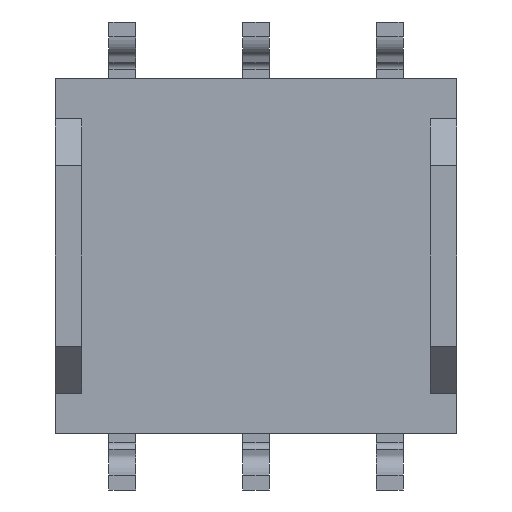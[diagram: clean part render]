
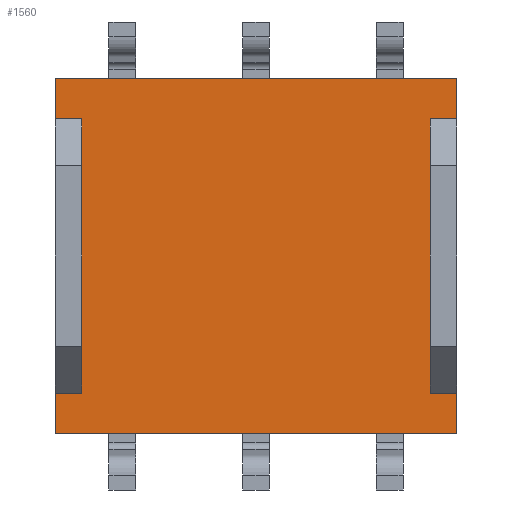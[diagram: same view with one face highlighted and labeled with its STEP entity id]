
A CAD part, front view. The second image highlights one B-rep face of the part: STEP entity #1560.
In plain terms, the highlighted planar face has unit normal (0, -1, 0).
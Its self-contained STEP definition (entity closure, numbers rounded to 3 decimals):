
#6 = ORIENTED_EDGE ( 'NONE', *, *, #292, .F. ) ;
#29 = LINE ( 'NONE', #2672, #2454 ) ;
#49 = DIRECTION ( 'NONE',  ( 0., 0., 1. ) ) ;
#68 = CARTESIAN_POINT ( 'NONE',  ( 3.81, 0., 2.605 ) ) ;
#77 = LINE ( 'NONE', #2484, #1863 ) ;
#141 = EDGE_CURVE ( 'NONE', #2230, #2447, #1150, .T. ) ;
#144 = DIRECTION ( 'NONE',  ( 0., -1., 0. ) ) ;
#147 = DIRECTION ( 'NONE',  ( 0., 0., -1. ) ) ;
#155 = VECTOR ( 'NONE', #1695, 1000. ) ;
#241 = ORIENTED_EDGE ( 'NONE', *, *, #947, .F. ) ;
#273 = VERTEX_POINT ( 'NONE', #792 ) ;
#280 = CARTESIAN_POINT ( 'NONE',  ( -3.81, 0., -3.365 ) ) ;
#292 = EDGE_CURVE ( 'NONE', #1627, #273, #927, .T. ) ;
#313 = VERTEX_POINT ( 'NONE', #2848 ) ;
#370 = CARTESIAN_POINT ( 'NONE',  ( 0., 0., 0. ) ) ;
#390 = VERTEX_POINT ( 'NONE', #2840 ) ;
#441 = DIRECTION ( 'NONE',  ( 0., 0., -1. ) ) ;
#499 = EDGE_CURVE ( 'NONE', #2447, #2584, #1364, .T. ) ;
#520 = VECTOR ( 'NONE', #2630, 1000. ) ;
#676 = CARTESIAN_POINT ( 'NONE',  ( 3.31, 0., 2.605 ) ) ;
#684 = LINE ( 'NONE', #1619, #3012 ) ;
#744 = VECTOR ( 'NONE', #2038, 1000. ) ;
#792 = CARTESIAN_POINT ( 'NONE',  ( -3.31, 0., 2.605 ) ) ;
#833 = CARTESIAN_POINT ( 'NONE',  ( 3.31, 0., -2.605 ) ) ;
#839 = EDGE_CURVE ( 'NONE', #2792, #313, #2719, .T. ) ;
#861 = VECTOR ( 'NONE', #49, 1000. ) ;
#872 = VECTOR ( 'NONE', #441, 1000. ) ;
#927 = LINE ( 'NONE', #1454, #861 ) ;
#947 = EDGE_CURVE ( 'NONE', #2584, #1627, #2892, .T. ) ;
#1017 = LINE ( 'NONE', #2060, #2806 ) ;
#1150 = LINE ( 'NONE', #280, #520 ) ;
#1275 = VECTOR ( 'NONE', #1329, 1000. ) ;
#1283 = CARTESIAN_POINT ( 'NONE',  ( -3.81, 0., 3.365 ) ) ;
#1329 = DIRECTION ( 'NONE',  ( 0., 0., 1. ) ) ;
#1345 = CARTESIAN_POINT ( 'NONE',  ( 3.81, 0., -3.365 ) ) ;
#1358 = EDGE_CURVE ( 'NONE', #1609, #2792, #77, .T. ) ;
#1364 = LINE ( 'NONE', #1283, #744 ) ;
#1392 = DIRECTION ( 'NONE',  ( 0., 0., -1. ) ) ;
#1399 = EDGE_LOOP ( 'NONE', ( #2129, #1456, #2870, #2341, #1758, #1882, #6, #241, #2151, #1682, #2360, #2368 ) ) ;
#1454 = CARTESIAN_POINT ( 'NONE',  ( -3.31, 0., 2.605 ) ) ;
#1456 = ORIENTED_EDGE ( 'NONE', *, *, #839, .F. ) ;
#1490 = CARTESIAN_POINT ( 'NONE',  ( -3.81, 0., -2.605 ) ) ;
#1497 = DIRECTION ( 'NONE',  ( 1., 0., 0. ) ) ;
#1505 = CARTESIAN_POINT ( 'NONE',  ( 3.81, 0., -2.605 ) ) ;
#1544 = PLANE ( 'NONE',  #2575 ) ;
#1556 = CARTESIAN_POINT ( 'NONE',  ( 3.81, 0., 3.365 ) ) ;
#1557 = DIRECTION ( 'NONE',  ( 1., 0., 0. ) ) ;
#1560 = ADVANCED_FACE ( 'NONE', ( #2677 ), #1544, .T. ) ;
#1609 = VERTEX_POINT ( 'NONE', #1556 ) ;
#1619 = CARTESIAN_POINT ( 'NONE',  ( 3.81, 0., 3.365 ) ) ;
#1627 = VERTEX_POINT ( 'NONE', #2028 ) ;
#1667 = CARTESIAN_POINT ( 'NONE',  ( -3.81, 0., -3.365 ) ) ;
#1682 = ORIENTED_EDGE ( 'NONE', *, *, #141, .F. ) ;
#1695 = DIRECTION ( 'NONE',  ( -1., 0., 0. ) ) ;
#1758 = ORIENTED_EDGE ( 'NONE', *, *, #2733, .F. ) ;
#1772 = DIRECTION ( 'NONE',  ( 0., 0., -1. ) ) ;
#1775 = VERTEX_POINT ( 'NONE', #2103 ) ;
#1863 = VECTOR ( 'NONE', #147, 1000. ) ;
#1882 = ORIENTED_EDGE ( 'NONE', *, *, #2246, .F. ) ;
#1967 = DIRECTION ( 'NONE',  ( 1., 0., 0. ) ) ;
#2028 = CARTESIAN_POINT ( 'NONE',  ( -3.31, 0., -2.605 ) ) ;
#2038 = DIRECTION ( 'NONE',  ( 0., 0., 1. ) ) ;
#2051 = EDGE_CURVE ( 'NONE', #2627, #1609, #29, .T. ) ;
#2058 = CARTESIAN_POINT ( 'NONE',  ( 3.81, 0., 2.605 ) ) ;
#2060 = CARTESIAN_POINT ( 'NONE',  ( -3.81, 0., 2.605 ) ) ;
#2103 = CARTESIAN_POINT ( 'NONE',  ( 3.81, 0., -2.605 ) ) ;
#2129 = ORIENTED_EDGE ( 'NONE', *, *, #2286, .F. ) ;
#2151 = ORIENTED_EDGE ( 'NONE', *, *, #499, .F. ) ;
#2172 = VERTEX_POINT ( 'NONE', #833 ) ;
#2222 = CARTESIAN_POINT ( 'NONE',  ( -3.81, 0., 3.365 ) ) ;
#2230 = VERTEX_POINT ( 'NONE', #1345 ) ;
#2246 = EDGE_CURVE ( 'NONE', #273, #390, #1017, .T. ) ;
#2266 = LINE ( 'NONE', #676, #872 ) ;
#2276 = VECTOR ( 'NONE', #1557, 1000. ) ;
#2286 = EDGE_CURVE ( 'NONE', #313, #2172, #2266, .T. ) ;
#2329 = LINE ( 'NONE', #1505, #2876 ) ;
#2341 = ORIENTED_EDGE ( 'NONE', *, *, #2051, .F. ) ;
#2360 = ORIENTED_EDGE ( 'NONE', *, *, #2943, .F. ) ;
#2368 = ORIENTED_EDGE ( 'NONE', *, *, #2622, .F. ) ;
#2447 = VERTEX_POINT ( 'NONE', #1667 ) ;
#2454 = VECTOR ( 'NONE', #1967, 1000. ) ;
#2484 = CARTESIAN_POINT ( 'NONE',  ( 3.81, 0., 3.365 ) ) ;
#2511 = CARTESIAN_POINT ( 'NONE',  ( -3.81, 0., -2.605 ) ) ;
#2575 = AXIS2_PLACEMENT_3D ( 'NONE', #370, #144, #1772 ) ;
#2584 = VERTEX_POINT ( 'NONE', #1490 ) ;
#2588 = LINE ( 'NONE', #2739, #1275 ) ;
#2622 = EDGE_CURVE ( 'NONE', #2172, #1775, #2329, .T. ) ;
#2627 = VERTEX_POINT ( 'NONE', #2222 ) ;
#2630 = DIRECTION ( 'NONE',  ( -1., 0., 0. ) ) ;
#2672 = CARTESIAN_POINT ( 'NONE',  ( -3.81, 0., 3.365 ) ) ;
#2677 = FACE_OUTER_BOUND ( 'NONE', #1399, .T. ) ;
#2719 = LINE ( 'NONE', #68, #155 ) ;
#2733 = EDGE_CURVE ( 'NONE', #390, #2627, #2588, .T. ) ;
#2739 = CARTESIAN_POINT ( 'NONE',  ( -3.81, 0., 3.365 ) ) ;
#2792 = VERTEX_POINT ( 'NONE', #2058 ) ;
#2806 = VECTOR ( 'NONE', #2975, 1000. ) ;
#2840 = CARTESIAN_POINT ( 'NONE',  ( -3.81, 0., 2.605 ) ) ;
#2848 = CARTESIAN_POINT ( 'NONE',  ( 3.31, 0., 2.605 ) ) ;
#2870 = ORIENTED_EDGE ( 'NONE', *, *, #1358, .F. ) ;
#2876 = VECTOR ( 'NONE', #1497, 1000. ) ;
#2892 = LINE ( 'NONE', #2511, #2276 ) ;
#2943 = EDGE_CURVE ( 'NONE', #1775, #2230, #684, .T. ) ;
#2975 = DIRECTION ( 'NONE',  ( -1., 0., 0. ) ) ;
#3012 = VECTOR ( 'NONE', #1392, 1000. ) ;
